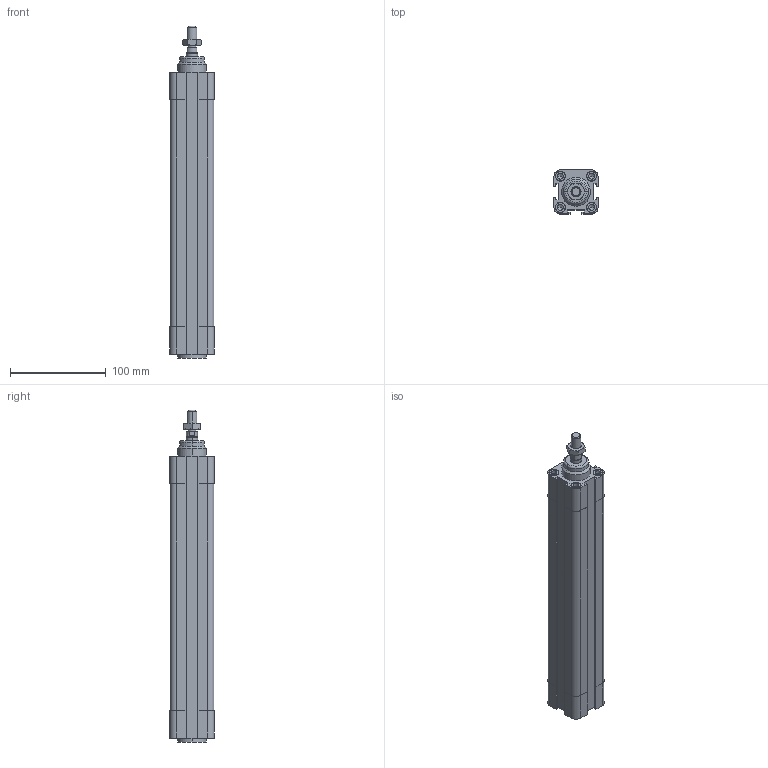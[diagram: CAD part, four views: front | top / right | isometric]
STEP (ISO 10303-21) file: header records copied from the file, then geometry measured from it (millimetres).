
FILE_DESCRIPTION((''),'2;1');
FILE_NAME('F:\Lib-3d\1380\CIL\1380_32_0200_01.stp','2004-01-07T15:59:05',('maffial1'),(''),'Autodesk Inventor 8','Autodesk Inventor 8','');
FILE_SCHEMA(('AUTOMOTIVE_DESIGN { 1 0 10303 214 1 1 1 1 }'));
Length unit declared in the file: millimetre
Products named in the file (4): 1380_32_0200_01; CPP01_32_200; CPP02_32_200; 1320_32_18F
Assembly tree (3 placements, depth 2):
  1380_32_0200_01
    CPP01_32_200
    CPP02_32_200
    1320_32_18F
Bounding box: 46 x 46 x 346 mm (x, y, z)
Volume: 559184.2 mm3; surface area: 94690.5 mm2
Topology: 3 solids, 3 shells, 244 faces, 570 edges, 356 vertices
Faces by surface type: plane 83, bspline 67, cylinder 58, cone 34, torus 2
Entity records: 7668 total; most frequent: CARTESIAN_POINT 2166, DIRECTION 1136, ORIENTED_EDGE 1108, EDGE_CURVE 554, AXIS2_PLACEMENT_3D 422, VERTEX_POINT 356, VECTOR 292, LINE 292
